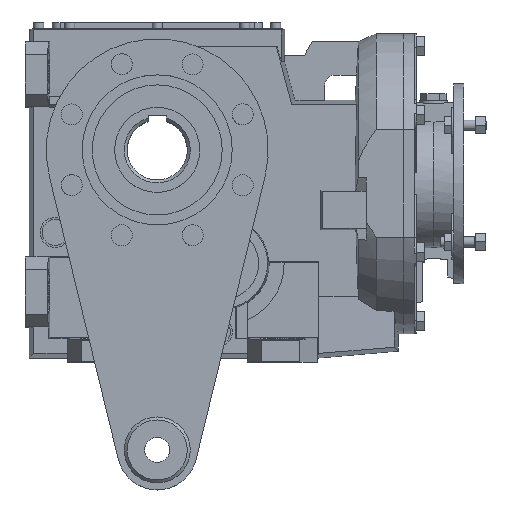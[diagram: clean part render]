
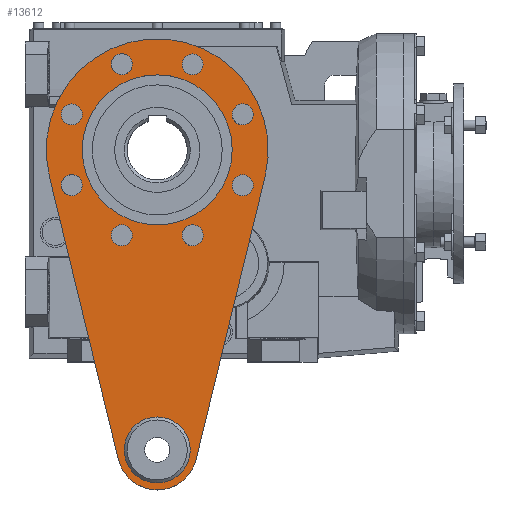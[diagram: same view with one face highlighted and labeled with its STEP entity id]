
A CAD part, top view. The second image highlights one B-rep face of the part: STEP entity #13612.
In plain terms, the highlighted planar face has unit normal (0, 0, 1) as drawn and (0, 0, -1) by its records, which use the part's own axes.
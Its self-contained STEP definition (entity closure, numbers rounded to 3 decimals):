
#1328=LINE('',#21919,#2626);
#1333=LINE('',#21934,#2631);
#2626=VECTOR('',#17741,1000.);
#2631=VECTOR('',#17754,1000.);
#5581=ORIENTED_EDGE('',*,*,#8050,.T.);
#5582=ORIENTED_EDGE('',*,*,#8051,.T.);
#5583=ORIENTED_EDGE('',*,*,#8052,.T.);
#5584=ORIENTED_EDGE('',*,*,#8053,.T.);
#5585=ORIENTED_EDGE('',*,*,#8054,.T.);
#5586=ORIENTED_EDGE('',*,*,#8055,.T.);
#5587=ORIENTED_EDGE('',*,*,#8056,.T.);
#5588=ORIENTED_EDGE('',*,*,#8057,.T.);
#5589=ORIENTED_EDGE('',*,*,#8033,.F.);
#5590=ORIENTED_EDGE('',*,*,#8046,.T.);
#5591=ORIENTED_EDGE('',*,*,#8035,.F.);
#5592=ORIENTED_EDGE('',*,*,#8047,.F.);
#5593=ORIENTED_EDGE('',*,*,#8042,.F.);
#5594=ORIENTED_EDGE('',*,*,#8039,.F.);
#8033=EDGE_CURVE('',#9536,#9536,#10224,.T.);
#8035=EDGE_CURVE('',#9538,#9539,#1328,.T.);
#8039=EDGE_CURVE('',#9539,#9542,#10226,.T.);
#8042=EDGE_CURVE('',#9542,#9544,#1333,.T.);
#8046=EDGE_CURVE('',#9547,#9547,#10229,.T.);
#8047=EDGE_CURVE('',#9544,#9538,#10230,.T.);
#8050=EDGE_CURVE('',#9549,#9549,#10233,.T.);
#8051=EDGE_CURVE('',#9550,#9550,#10234,.T.);
#8052=EDGE_CURVE('',#9551,#9551,#10235,.T.);
#8053=EDGE_CURVE('',#9552,#9552,#10236,.T.);
#8054=EDGE_CURVE('',#9553,#9553,#10237,.T.);
#8055=EDGE_CURVE('',#9554,#9554,#10238,.T.);
#8056=EDGE_CURVE('',#9555,#9555,#10239,.T.);
#8057=EDGE_CURVE('',#9556,#9556,#10240,.T.);
#9536=VERTEX_POINT('',#21914);
#9538=VERTEX_POINT('',#21920);
#9539=VERTEX_POINT('',#21921);
#9542=VERTEX_POINT('',#21929);
#9544=VERTEX_POINT('',#21935);
#9547=VERTEX_POINT('',#21943);
#9549=VERTEX_POINT('',#21952);
#9550=VERTEX_POINT('',#21954);
#9551=VERTEX_POINT('',#21956);
#9552=VERTEX_POINT('',#21958);
#9553=VERTEX_POINT('',#21960);
#9554=VERTEX_POINT('',#21962);
#9555=VERTEX_POINT('',#21964);
#9556=VERTEX_POINT('',#21966);
#10224=CIRCLE('',#14733,33.);
#10226=CIRCLE('',#14738,111.);
#10229=CIRCLE('',#14743,75.);
#10230=CIRCLE('',#14745,40.);
#10233=CIRCLE('',#14750,10.5);
#10234=CIRCLE('',#14751,10.5);
#10235=CIRCLE('',#14752,10.5);
#10236=CIRCLE('',#14753,10.5);
#10237=CIRCLE('',#14754,10.5);
#10238=CIRCLE('',#14755,10.5);
#10239=CIRCLE('',#14756,10.5);
#10240=CIRCLE('',#14757,10.5);
#11087=EDGE_LOOP('',(#5581));
#11088=EDGE_LOOP('',(#5582));
#11089=EDGE_LOOP('',(#5583));
#11090=EDGE_LOOP('',(#5584));
#11091=EDGE_LOOP('',(#5585));
#11092=EDGE_LOOP('',(#5586));
#11093=EDGE_LOOP('',(#5587));
#11094=EDGE_LOOP('',(#5588));
#11095=EDGE_LOOP('',(#5589));
#11096=EDGE_LOOP('',(#5590));
#11097=EDGE_LOOP('',(#5591,#5592,#5593,#5594));
#12155=FACE_BOUND('',#11087,.T.);
#12156=FACE_BOUND('',#11088,.T.);
#12157=FACE_BOUND('',#11089,.T.);
#12158=FACE_BOUND('',#11090,.T.);
#12159=FACE_BOUND('',#11091,.T.);
#12160=FACE_BOUND('',#11092,.T.);
#12161=FACE_BOUND('',#11093,.T.);
#12162=FACE_BOUND('',#11094,.T.);
#12163=FACE_BOUND('',#11095,.T.);
#12164=FACE_BOUND('',#11096,.T.);
#12165=FACE_BOUND('',#11097,.T.);
#12877=PLANE('',#14749);
#13612=ADVANCED_FACE('',(#12155,#12156,#12157,#12158,#12159,#12160,#12161,
#12162,#12163,#12164,#12165),#12877,.F.);
#14733=AXIS2_PLACEMENT_3D('',#21913,#17733,#17734);
#14738=AXIS2_PLACEMENT_3D('',#21928,#17747,#17748);
#14743=AXIS2_PLACEMENT_3D('',#21942,#17761,#17762);
#14745=AXIS2_PLACEMENT_3D('',#21945,#17765,#17766);
#14749=AXIS2_PLACEMENT_3D('',#21950,#17773,#17774);
#14750=AXIS2_PLACEMENT_3D('',#21951,#17775,#17776);
#14751=AXIS2_PLACEMENT_3D('',#21953,#17777,#17778);
#14752=AXIS2_PLACEMENT_3D('',#21955,#17779,#17780);
#14753=AXIS2_PLACEMENT_3D('',#21957,#17781,#17782);
#14754=AXIS2_PLACEMENT_3D('',#21959,#17783,#17784);
#14755=AXIS2_PLACEMENT_3D('',#21961,#17785,#17786);
#14756=AXIS2_PLACEMENT_3D('',#21963,#17787,#17788);
#14757=AXIS2_PLACEMENT_3D('',#21965,#17789,#17790);
#17733=DIRECTION('',(0.,0.,-1.));
#17734=DIRECTION('',(-1.,0.,0.));
#17741=DIRECTION('',(0.237,0.972,0.));
#17747=DIRECTION('',(0.,0.,1.));
#17748=DIRECTION('',(1.,0.,0.));
#17754=DIRECTION('',(0.237,-0.972,0.));
#17761=DIRECTION('',(0.,0.,1.));
#17762=DIRECTION('',(1.,0.,0.));
#17765=DIRECTION('',(0.,0.,1.));
#17766=DIRECTION('',(1.,0.,0.));
#17773=DIRECTION('',(0.,0.,1.));
#17774=DIRECTION('',(1.,0.,0.));
#17775=DIRECTION('',(0.,0.,1.));
#17776=DIRECTION('',(1.,0.,0.));
#17777=DIRECTION('',(0.,0.,1.));
#17778=DIRECTION('',(1.,0.,0.));
#17779=DIRECTION('',(0.,0.,1.));
#17780=DIRECTION('',(1.,0.,0.));
#17781=DIRECTION('',(0.,0.,1.));
#17782=DIRECTION('',(1.,0.,0.));
#17783=DIRECTION('',(0.,0.,1.));
#17784=DIRECTION('',(1.,0.,0.));
#17785=DIRECTION('',(0.,0.,1.));
#17786=DIRECTION('',(1.,0.,0.));
#17787=DIRECTION('',(0.,0.,1.));
#17788=DIRECTION('',(1.,0.,0.));
#17789=DIRECTION('',(0.,0.,1.));
#17790=DIRECTION('',(1.,0.,0.));
#21913=CARTESIAN_POINT('',(0.,-300.,-4.));
#21914=CARTESIAN_POINT('',(-33.,-300.,-4.));
#21919=CARTESIAN_POINT('',(38.864,-309.467,-4.));
#21920=CARTESIAN_POINT('',(38.864,-309.467,-4.));
#21921=CARTESIAN_POINT('',(107.847,-26.27,-4.));
#21928=CARTESIAN_POINT('',(0.,0.,-4.));
#21929=CARTESIAN_POINT('',(-107.847,-26.27,-4.));
#21934=CARTESIAN_POINT('',(-107.847,-26.27,-4.));
#21935=CARTESIAN_POINT('',(-38.864,-309.467,-4.));
#21942=CARTESIAN_POINT('',(0.,0.,-4.));
#21943=CARTESIAN_POINT('',(75.,0.,-4.));
#21945=CARTESIAN_POINT('',(0.,-300.,-4.));
#21950=CARTESIAN_POINT('',(0.,0.,-4.));
#21951=CARTESIAN_POINT('',(35.398,85.459,-4.));
#21952=CARTESIAN_POINT('',(45.898,85.459,-4.));
#21953=CARTESIAN_POINT('',(85.459,35.398,-4.));
#21954=CARTESIAN_POINT('',(95.959,35.398,-4.));
#21955=CARTESIAN_POINT('',(85.459,-35.398,-4.));
#21956=CARTESIAN_POINT('',(95.959,-35.398,-4.));
#21957=CARTESIAN_POINT('',(35.398,-85.459,-4.));
#21958=CARTESIAN_POINT('',(45.898,-85.459,-4.));
#21959=CARTESIAN_POINT('',(-35.398,-85.459,-4.));
#21960=CARTESIAN_POINT('',(-24.898,-85.459,-4.));
#21961=CARTESIAN_POINT('',(-85.459,-35.398,-4.));
#21962=CARTESIAN_POINT('',(-74.959,-35.398,-4.));
#21963=CARTESIAN_POINT('',(-85.459,35.398,-4.));
#21964=CARTESIAN_POINT('',(-74.959,35.398,-4.));
#21965=CARTESIAN_POINT('',(-35.398,85.459,-4.));
#21966=CARTESIAN_POINT('',(-24.898,85.459,-4.));
